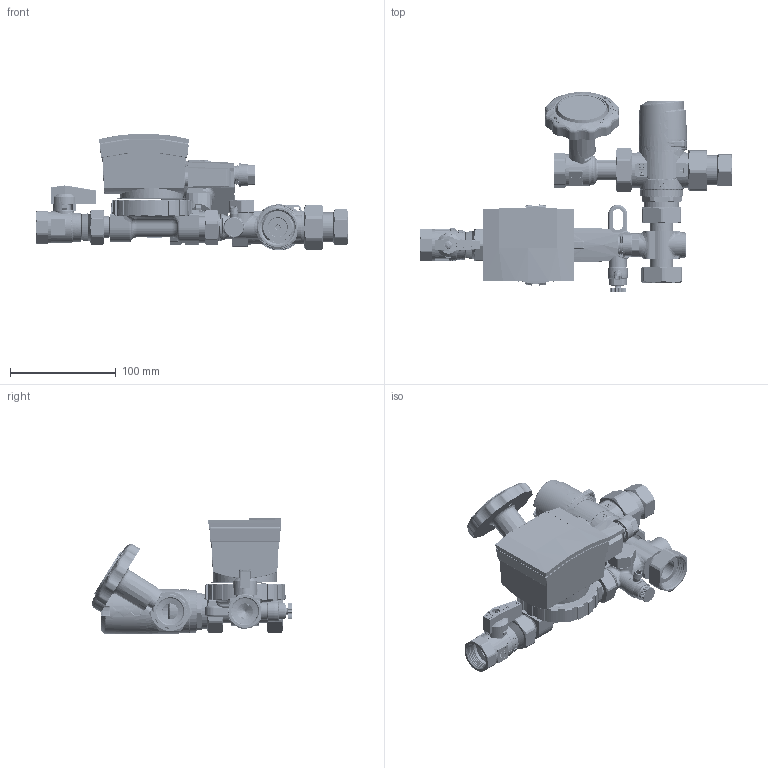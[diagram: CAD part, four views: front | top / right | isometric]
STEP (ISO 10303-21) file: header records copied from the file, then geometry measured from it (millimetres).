
FILE_DESCRIPTION (( 'STEP AP214' ), '1' );
FILE_NAME ('WZS75.STEP', '2022-07-13T09:11:23', ( '' ), ( '' ), 'SwSTEP 2.0', 'SolidWorks 2021', '' );
FILE_SCHEMA (( 'AUTOMOTIVE_DESIGN' ));
Length unit declared in the file: millimetre
Products named in the file (45): 30505073; 31505428; 30525300; 41181; 31605330; 52110008; 20305426_Termometro Blu; 54705876; 67082; 30525073; 67079; 52705004; 21780; 20305129; 67081; 31505091; 90305134; M1605408; 52605483; 70305426; 31505007; L1605408; 53105460; 31505460; L0105517; WZS75; 52905873; 52605009; 32205061; 30105181; 50105001; 52705080; ATM563; 33208004; 50905055; 50905871; 32305026; 50109545; 52005071; 30505300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
Assembly tree (59 placements, depth 6):
  WZS75
    M0105517
      L0105517
      31505428  x2
      32205061
      50109545
      50105001
    52605483  x3
    52705080  x2
    31605209  x2
    31505007  x2
    70305426
      90305426
        20305426_Termometro Blu
          30105181
          31605330
          33208004
          52705004  x2
          30525300
            30505300
            52905873  x2
        52005071
        31505091
        54705876
        50905871
      31505428
    90305134
      20305129
        30105029
        30525073
          30505073
          52905873  x2
        52705004  x2
        33208004
        31605330
      50905055
      52110008
    M1605408
      L1605408
      53105460
      31505460
    50105187
    32305026
    52605009
    ATM563
      41181
      67082
      67079
      21780
      67081
Bounding box: 295 x 189.08 x 110.2 mm (x, y, z)
Volume: 247809.8 mm3; surface area: 293683.9 mm2
Topology: 139 solids, 601 shells, 7564 faces, 19922 edges, 13065 vertices
Faces by surface type: plane 2208, cylinder 2104, bspline 1858, cone 1332, torus 51, sphere 11
Entity records: 404751 total; most frequent: CARTESIAN_POINT 216683, ORIENTED_EDGE 35133, DIRECTION 29377, EDGE_CURVE 18707, VERTEX_POINT 12463, AXIS2_PLACEMENT_3D 11032, EDGE_LOOP 7470, VECTOR 7313
